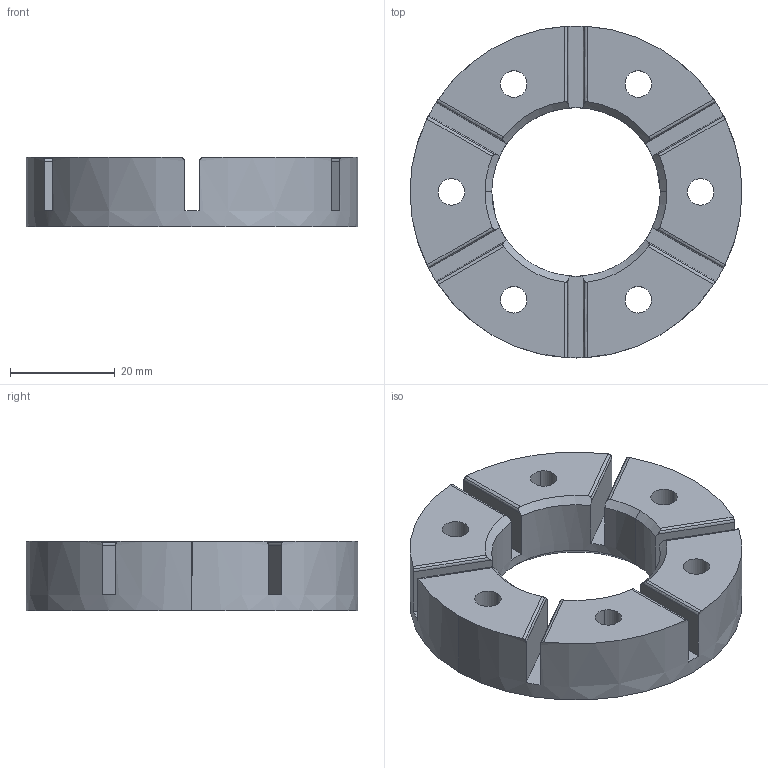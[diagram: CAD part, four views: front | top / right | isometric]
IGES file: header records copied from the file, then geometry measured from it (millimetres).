
Global section: file name: C:\Documents and Settings\Administrator\Desktop\Transfer Temp\wheelhub.igs; native system: AutoDesk Inventor R2.0 ; preprocessor: AutoDesk Inventor Iges Exporter R2.0; author: No Author specified; organization: No Organization specified; date: 20011227.203921; units: inch
Bounding box: 63.5 x 63.5 x 13.21 mm (x, y, z)
Surface area: 11505.8 mm2 (no closed solid volume)
Topology: 0 solids, 0 shells, 117 faces, 676 edges, 676 vertices
Faces by surface type: bspline 79, revolution 38
